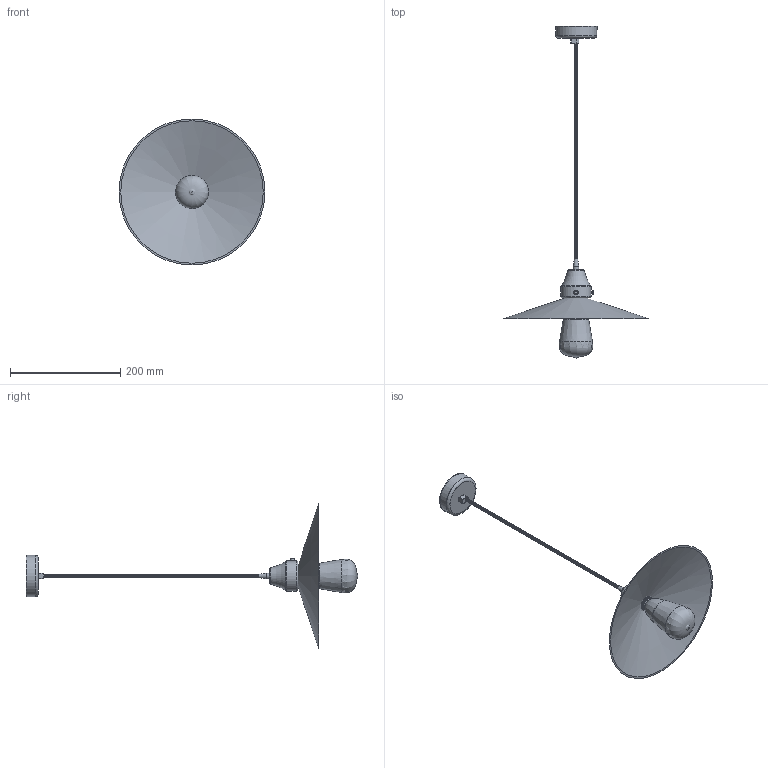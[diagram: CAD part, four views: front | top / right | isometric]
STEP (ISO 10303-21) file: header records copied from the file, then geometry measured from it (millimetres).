
FILE_DESCRIPTION(/* description */ (''),/* implementation_level */ '2;1');
FILE_NAME(/* name */ 'C:\Users\Dominika\Desktop\Modele CZARNY\JAZZ\LAMPA JAZZ.stp',/* time_stamp */ '2019-12-05T20:37:51+01:00',/* author */ ('Dominika'),/* organization */ (''),/* preprocessor_version */ 'ST-DEVELOPER v17',/* originating_system */ 'Autodesk Inventor 2019',/* authorisation */ '');
FILE_SCHEMA (('AUTOMOTIVE_DESIGN { 1 0 10303 214 3 1 1 }'));
Length unit declared in the file: millimetre
Products named in the file (16): LAMPA JAZZ; JAZZ klosz II; JAZZ klosz; lampadina-edison_MIR; filamenti_MIR; vetro-esterno_MIR; vetro-interno_MIR; vite_MIR; BS 4183 - M4,5 x 8; B03 uchwyt kabla; BLUES kabel I; BLUES kabel II; 1. zespol mocowania do sciany; FUNK mocowanie do sciany; FUNK mocowanie kabla; sruba
Assembly tree (414 placements, depth 3):
  LAMPA JAZZ
    JAZZ klosz II
    JAZZ klosz
    lampadina-edison_MIR
      filamenti_MIR
      vetro-esterno_MIR
      vetro-interno_MIR
      vite_MIR
    BS 4183 - M4,5 x 8  x2
    B03 uchwyt kabla
    BLUES kabel I  x200
    BLUES kabel II  x200
    1. zespol mocowania do sciany
      FUNK mocowanie do sciany
      FUNK mocowanie kabla
      sruba
Bounding box: 265 x 602.73 x 265 mm (x, y, z)
Volume: 187559.1 mm3; surface area: 211635.1 mm2
Topology: 415 solids, 415 shells, 1437 faces, 1800 edges, 1197 vertices
Faces by surface type: plane 905, cylinder 465, torus 28, bspline 21, cone 12, sphere 6
Full cylindrical faces by diameter (mm): 0.5 x20, 0.6 x8, 1.5 x4, 2.5 x1, 2.694 x1, 4 x2, 4.04 x2, 4.5 x2, 4.694 x1, 5 x402, 6 x2, 8.792 x1, 10 x1, 10.792 x1, 24 x1, 24.015 x1, 25.6 x1, 28 x1, 53 x1, 55 x1, 73 x1, 75 x1
Entity records: 15294 total; most frequent: CARTESIAN_POINT 6259, DIRECTION 2017, ORIENTED_EDGE 1098, AXIS2_PLACEMENT_3D 926, EDGE_CURVE 549, PRODUCT_DEFINITION_SHAPE 430, ITEM_DEFINED_TRANSFORMATION 414, CONTEXT_DEPENDENT_SHAPE_REPRESENTATION 414
